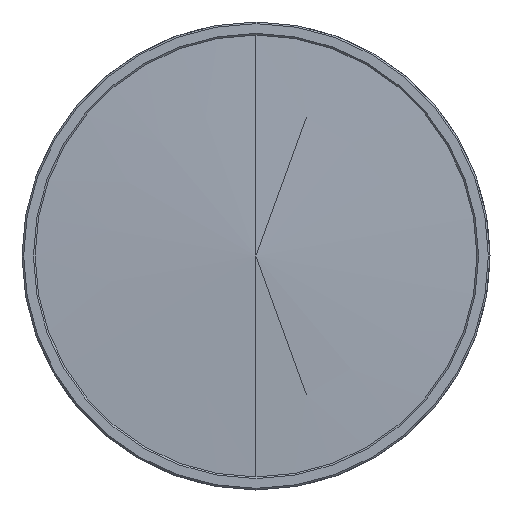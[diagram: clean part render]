
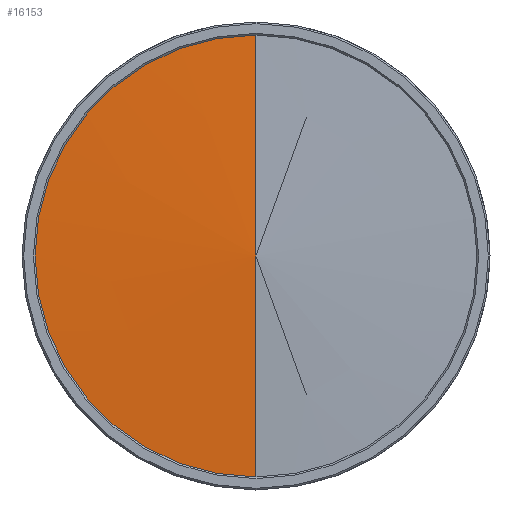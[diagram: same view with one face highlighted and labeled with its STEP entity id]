
A CAD part, left-side view. The second image highlights one B-rep face of the part: STEP entity #16153.
In plain terms, the highlighted conical face has half-angle 87.488 degrees and reference radius 40.861 mm.
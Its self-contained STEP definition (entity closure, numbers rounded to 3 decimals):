
#614 = CARTESIAN_POINT ( 'NONE',  ( 0., 0., 0. ) ) ;
#1148 = ORIENTED_EDGE ( 'NONE', *, *, #16362, .F. ) ;
#1180 = EDGE_CURVE ( 'NONE', #6289, #12474, #8510, .T. ) ;
#1373 = DIRECTION ( 'NONE',  ( 0., 0., -1. ) ) ;
#1464 = CARTESIAN_POINT ( 'NONE',  ( 1.74, 0., -39.65 ) ) ;
#2052 = DIRECTION ( 'NONE',  ( 0.044, 0., 0.999 ) ) ;
#2492 = CARTESIAN_POINT ( 'NONE',  ( 1.793, 0., 0. ) ) ;
#2576 = AXIS2_PLACEMENT_3D ( 'NONE', #2492, #4119, #5874 ) ;
#3756 = CARTESIAN_POINT ( 'NONE',  ( 1.793, 0., 40.861 ) ) ;
#3941 = VECTOR ( 'NONE', #13575, 1000. ) ;
#4119 = DIRECTION ( 'NONE',  ( 1., 0., 0. ) ) ;
#5414 = LINE ( 'NONE', #3756, #17824 ) ;
#5524 = CONICAL_SURFACE ( 'NONE', #2576, 40.861, 1.527 ) ;
#5874 = DIRECTION ( 'NONE',  ( 0., 0., -1. ) ) ;
#6289 = VERTEX_POINT ( 'NONE', #1464 ) ;
#7152 = EDGE_LOOP ( 'NONE', ( #1148, #21816, #14622 ) ) ;
#8510 = CIRCLE ( 'NONE', #17636, 39.65 ) ;
#10988 = EDGE_CURVE ( 'NONE', #16013, #12474, #5414, .T. ) ;
#12474 = VERTEX_POINT ( 'NONE', #14033 ) ;
#13575 = DIRECTION ( 'NONE',  ( 0.044, 0., -0.999 ) ) ;
#14033 = CARTESIAN_POINT ( 'NONE',  ( 1.74, 0., 39.65 ) ) ;
#14622 = ORIENTED_EDGE ( 'NONE', *, *, #1180, .F. ) ;
#16013 = VERTEX_POINT ( 'NONE', #614 ) ;
#16153 = ADVANCED_FACE ( 'NONE', ( #17925 ), #5524, .T. ) ;
#16362 = EDGE_CURVE ( 'NONE', #16013, #6289, #20043, .T. ) ;
#17229 = CARTESIAN_POINT ( 'NONE',  ( 1.793, 0., -40.861 ) ) ;
#17636 = AXIS2_PLACEMENT_3D ( 'NONE', #18153, #21637, #1373 ) ;
#17824 = VECTOR ( 'NONE', #2052, 1000. ) ;
#17925 = FACE_OUTER_BOUND ( 'NONE', #7152, .T. ) ;
#18153 = CARTESIAN_POINT ( 'NONE',  ( 1.74, 0., 0. ) ) ;
#20043 = LINE ( 'NONE', #17229, #3941 ) ;
#21637 = DIRECTION ( 'NONE',  ( 1., 0., 0. ) ) ;
#21816 = ORIENTED_EDGE ( 'NONE', *, *, #10988, .T. ) ;
